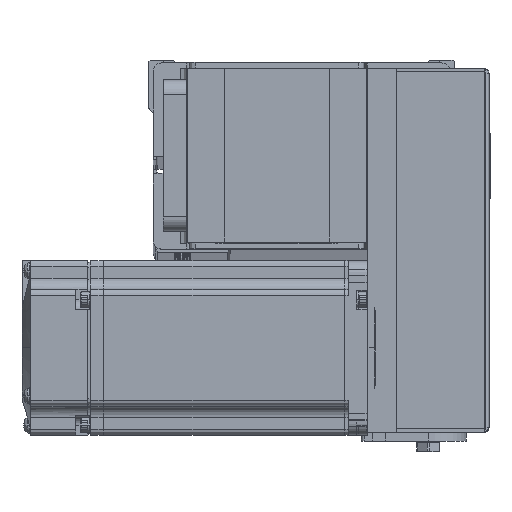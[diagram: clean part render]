
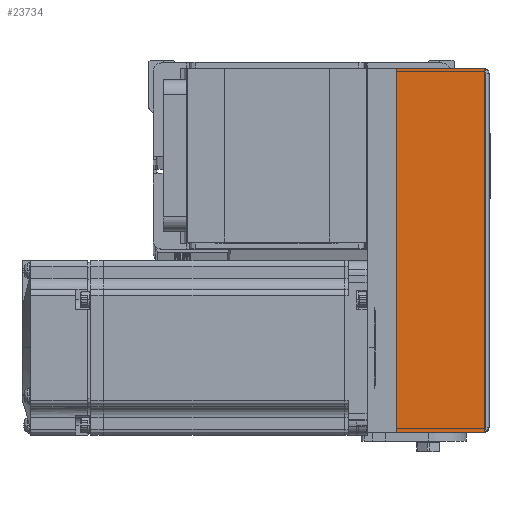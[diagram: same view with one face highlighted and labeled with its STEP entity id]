
A CAD part, top view. The second image highlights one B-rep face of the part: STEP entity #23734.
In plain terms, the highlighted planar face has unit normal (0, 0, 1).
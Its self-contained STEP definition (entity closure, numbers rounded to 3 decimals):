
#446 = CARTESIAN_POINT ( 'NONE',  ( -62.5, -30.3, 31. ) ) ;
#707 = VERTEX_POINT ( 'NONE', #42251 ) ;
#1065 = CARTESIAN_POINT ( 'NONE',  ( -62.5, -30.3, 31. ) ) ;
#4060 = FACE_OUTER_BOUND ( 'NONE', #23404, .T. ) ;
#6087 = LINE ( 'NONE', #20176, #8439 ) ;
#6670 = EDGE_CURVE ( 'NONE', #25771, #46706, #22818, .T. ) ;
#8439 = VECTOR ( 'NONE', #16583, 1000. ) ;
#11136 = DIRECTION ( 'NONE',  ( -1., 0., 0. ) ) ;
#11624 = EDGE_CURVE ( 'NONE', #707, #46706, #25726, .T. ) ;
#12344 = AXIS2_PLACEMENT_3D ( 'NONE', #21952, #36479, #18601 ) ;
#13890 = VECTOR ( 'NONE', #44236, 1000. ) ;
#14271 = CARTESIAN_POINT ( 'NONE',  ( -62.5, -30.3, 31. ) ) ;
#16282 = EDGE_CURVE ( 'NONE', #26965, #25771, #33669, .T. ) ;
#16583 = DIRECTION ( 'NONE',  ( 0., 1., 0. ) ) ;
#18601 = DIRECTION ( 'NONE',  ( 0., -1., 0. ) ) ;
#19667 = CARTESIAN_POINT ( 'NONE',  ( -62.5, 0., 31. ) ) ;
#20176 = CARTESIAN_POINT ( 'NONE',  ( 62.5, -30.3, 31. ) ) ;
#20357 = ORIENTED_EDGE ( 'NONE', *, *, #6670, .F. ) ;
#20592 = ORIENTED_EDGE ( 'NONE', *, *, #16282, .F. ) ;
#21628 = EDGE_CURVE ( 'NONE', #26965, #707, #6087, .T. ) ;
#21952 = CARTESIAN_POINT ( 'NONE',  ( 0., -30.8, 31. ) ) ;
#22818 = LINE ( 'NONE', #446, #13890 ) ;
#23404 = EDGE_LOOP ( 'NONE', ( #20592, #40139, #24189, #20357 ) ) ;
#23734 = ADVANCED_FACE ( 'NONE', ( #4060 ), #44313, .F. ) ;
#24189 = ORIENTED_EDGE ( 'NONE', *, *, #11624, .T. ) ;
#25726 = LINE ( 'NONE', #32837, #36829 ) ;
#25771 = VERTEX_POINT ( 'NONE', #14271 ) ;
#26965 = VERTEX_POINT ( 'NONE', #36690 ) ;
#29631 = DIRECTION ( 'NONE',  ( -1., 0., 0. ) ) ;
#31884 = VECTOR ( 'NONE', #29631, 1000. ) ;
#32837 = CARTESIAN_POINT ( 'NONE',  ( 0., 0., 31. ) ) ;
#33669 = LINE ( 'NONE', #1065, #31884 ) ;
#36479 = DIRECTION ( 'NONE',  ( 0., 0., -1. ) ) ;
#36690 = CARTESIAN_POINT ( 'NONE',  ( 62.5, -30.3, 31. ) ) ;
#36829 = VECTOR ( 'NONE', #11136, 1000. ) ;
#40139 = ORIENTED_EDGE ( 'NONE', *, *, #21628, .T. ) ;
#42251 = CARTESIAN_POINT ( 'NONE',  ( 62.5, 0., 31. ) ) ;
#44236 = DIRECTION ( 'NONE',  ( 0., 1., 0. ) ) ;
#44313 = PLANE ( 'NONE',  #12344 ) ;
#46706 = VERTEX_POINT ( 'NONE', #19667 ) ;
